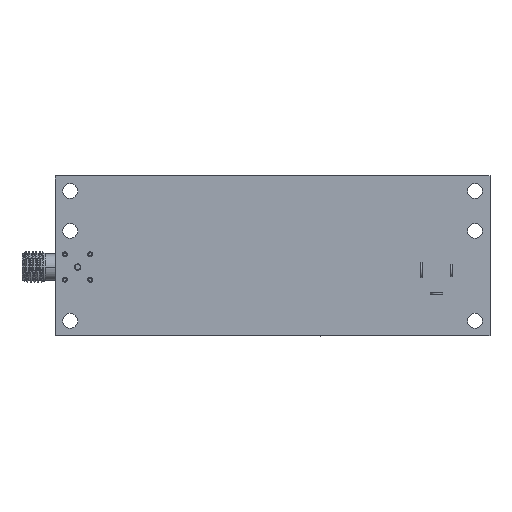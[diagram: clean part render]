
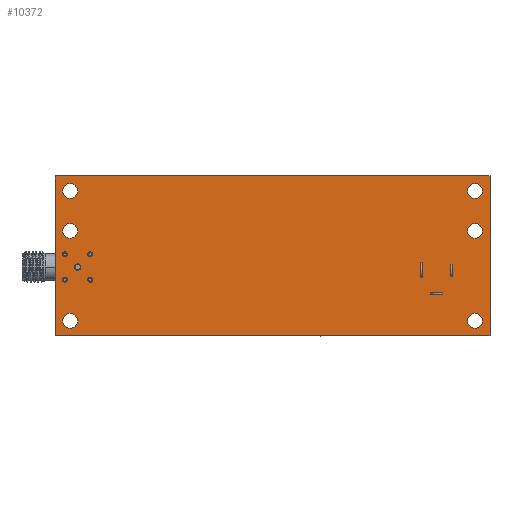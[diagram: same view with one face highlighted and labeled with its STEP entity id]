
A CAD part, top view. The second image highlights one B-rep face of the part: STEP entity #10372.
In plain terms, the highlighted planar face has unit normal (0, 0, 1).
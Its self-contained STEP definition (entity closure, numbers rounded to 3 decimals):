
#1 = ORIENTED_EDGE ( 'NONE', *, *, #3732, .T. ) ;
#21 = EDGE_CURVE ( 'NONE', #6914, #8285, #5935, .T. ) ;
#51 = DIRECTION ( 'NONE',  ( -1., 0., 0. ) ) ;
#85 = VERTEX_POINT ( 'NONE', #1519 ) ;
#250 = EDGE_LOOP ( 'NONE', ( #10302, #11167 ) ) ;
#251 = AXIS2_PLACEMENT_3D ( 'NONE', #5377, #7181, #11874 ) ;
#301 = CARTESIAN_POINT ( 'NONE',  ( 3., 3., 1.6 ) ) ;
#545 = CARTESIAN_POINT ( 'NONE',  ( 0., 0., 1.6 ) ) ;
#547 = CARTESIAN_POINT ( 'NONE',  ( 85.5, 21., 1.6 ) ) ;
#612 = ORIENTED_EDGE ( 'NONE', *, *, #9638, .T. ) ;
#627 = CIRCLE ( 'NONE', #1920, 1.5 ) ;
#655 = CARTESIAN_POINT ( 'NONE',  ( 1.5, 21., 1.6 ) ) ;
#851 = VERTEX_POINT ( 'NONE', #10144 ) ;
#868 = CARTESIAN_POINT ( 'NONE',  ( 0., 0., 1.6 ) ) ;
#1053 = CARTESIAN_POINT ( 'NONE',  ( 1.5, 29., 1.6 ) ) ;
#1156 = EDGE_LOOP ( 'NONE', ( #7958, #8464 ) ) ;
#1176 = VERTEX_POINT ( 'NONE', #7930 ) ;
#1188 = FACE_BOUND ( 'NONE', #1156, .T. ) ;
#1372 = LINE ( 'NONE', #3040, #11508 ) ;
#1519 = CARTESIAN_POINT ( 'NONE',  ( 0., 32., 1.6 ) ) ;
#1640 = EDGE_CURVE ( 'NONE', #10937, #85, #6713, .T. ) ;
#1771 = CARTESIAN_POINT ( 'NONE',  ( 87., 32., 1.6 ) ) ;
#1862 = EDGE_CURVE ( 'NONE', #8520, #9144, #9624, .T. ) ;
#1867 = CARTESIAN_POINT ( 'NONE',  ( 84., 29., 1.6 ) ) ;
#1920 = AXIS2_PLACEMENT_3D ( 'NONE', #2167, #11248, #4896 ) ;
#2167 = CARTESIAN_POINT ( 'NONE',  ( 3., 21., 1.6 ) ) ;
#2195 = LINE ( 'NONE', #2381, #10704 ) ;
#2257 = DIRECTION ( 'NONE',  ( 0., 0., -1. ) ) ;
#2269 = DIRECTION ( 'NONE',  ( -1., 0., 0. ) ) ;
#2369 = AXIS2_PLACEMENT_3D ( 'NONE', #10656, #11602, #7963 ) ;
#2381 = CARTESIAN_POINT ( 'NONE',  ( 0., 0., 1.6 ) ) ;
#2398 = AXIS2_PLACEMENT_3D ( 'NONE', #4338, #5220, #10804 ) ;
#2453 = VERTEX_POINT ( 'NONE', #9436 ) ;
#2582 = ORIENTED_EDGE ( 'NONE', *, *, #5978, .T. ) ;
#2620 = AXIS2_PLACEMENT_3D ( 'NONE', #10006, #7183, #9966 ) ;
#2943 = CARTESIAN_POINT ( 'NONE',  ( 0., 32., 1.6 ) ) ;
#2988 = DIRECTION ( 'NONE',  ( 0., 0., -1. ) ) ;
#3040 = CARTESIAN_POINT ( 'NONE',  ( 87., 0., 1.6 ) ) ;
#3100 = EDGE_LOOP ( 'NONE', ( #612, #1 ) ) ;
#3210 = ORIENTED_EDGE ( 'NONE', *, *, #1862, .T. ) ;
#3348 = EDGE_LOOP ( 'NONE', ( #4606, #7848 ) ) ;
#3654 = CIRCLE ( 'NONE', #5534, 1.5 ) ;
#3722 = EDGE_CURVE ( 'NONE', #5118, #851, #2195, .T. ) ;
#3732 = EDGE_CURVE ( 'NONE', #9494, #9483, #3654, .T. ) ;
#3815 = CARTESIAN_POINT ( 'NONE',  ( 85.5, 3., 1.6 ) ) ;
#3970 = DIRECTION ( 'NONE',  ( 0., 1., 0. ) ) ;
#4158 = DIRECTION ( 'NONE',  ( 0., 0., -1. ) ) ;
#4242 = CARTESIAN_POINT ( 'NONE',  ( 4.5, 3., 1.6 ) ) ;
#4244 = VECTOR ( 'NONE', #9402, 1000. ) ;
#4317 = ORIENTED_EDGE ( 'NONE', *, *, #8974, .T. ) ;
#4338 = CARTESIAN_POINT ( 'NONE',  ( 84., 21., 1.6 ) ) ;
#4342 = VERTEX_POINT ( 'NONE', #655 ) ;
#4403 = AXIS2_PLACEMENT_3D ( 'NONE', #8390, #9242, #6481 ) ;
#4426 = CARTESIAN_POINT ( 'NONE',  ( 85.5, 29., 1.6 ) ) ;
#4489 = FACE_BOUND ( 'NONE', #250, .T. ) ;
#4556 = CIRCLE ( 'NONE', #251, 1.5 ) ;
#4573 = AXIS2_PLACEMENT_3D ( 'NONE', #9260, #11055, #4739 ) ;
#4606 = ORIENTED_EDGE ( 'NONE', *, *, #5960, .T. ) ;
#4638 = CIRCLE ( 'NONE', #11841, 1.5 ) ;
#4739 = DIRECTION ( 'NONE',  ( 1., 0., 0. ) ) ;
#4896 = DIRECTION ( 'NONE',  ( 1., 0., 0. ) ) ;
#4912 = CARTESIAN_POINT ( 'NONE',  ( 82.5, 29., 1.6 ) ) ;
#4930 = ORIENTED_EDGE ( 'NONE', *, *, #6169, .T. ) ;
#5118 = VERTEX_POINT ( 'NONE', #868 ) ;
#5177 = CARTESIAN_POINT ( 'NONE',  ( 4.5, 29., 1.6 ) ) ;
#5220 = DIRECTION ( 'NONE',  ( 0., 0., -1. ) ) ;
#5377 = CARTESIAN_POINT ( 'NONE',  ( 84., 3., 1.6 ) ) ;
#5405 = CIRCLE ( 'NONE', #8408, 1.5 ) ;
#5504 = DIRECTION ( 'NONE',  ( 1., 0., 0. ) ) ;
#5534 = AXIS2_PLACEMENT_3D ( 'NONE', #6908, #4158, #2269 ) ;
#5827 = CIRCLE ( 'NONE', #7321, 1.5 ) ;
#5860 = CARTESIAN_POINT ( 'NONE',  ( 84., 3., 1.6 ) ) ;
#5935 = CIRCLE ( 'NONE', #2369, 1.5 ) ;
#5947 = EDGE_LOOP ( 'NONE', ( #6999, #6630, #4930, #6964 ) ) ;
#5960 = EDGE_CURVE ( 'NONE', #1176, #8108, #4556, .T. ) ;
#5968 = AXIS2_PLACEMENT_3D ( 'NONE', #11001, #8321, #5504 ) ;
#5978 = EDGE_CURVE ( 'NONE', #9545, #4342, #7909, .T. ) ;
#6031 = CARTESIAN_POINT ( 'NONE',  ( 82.5, 21., 1.6 ) ) ;
#6169 = EDGE_CURVE ( 'NONE', #851, #10937, #1372, .T. ) ;
#6409 = CIRCLE ( 'NONE', #4573, 1.5 ) ;
#6481 = DIRECTION ( 'NONE',  ( -1., 0., 0. ) ) ;
#6489 = EDGE_CURVE ( 'NONE', #9144, #8520, #6409, .T. ) ;
#6580 = DIRECTION ( 'NONE',  ( 0., 0., -1. ) ) ;
#6630 = ORIENTED_EDGE ( 'NONE', *, *, #3722, .T. ) ;
#6653 = DIRECTION ( 'NONE',  ( -1., 0., 0. ) ) ;
#6713 = LINE ( 'NONE', #2943, #4244 ) ;
#6906 = DIRECTION ( 'NONE',  ( 0., -1., 0. ) ) ;
#6908 = CARTESIAN_POINT ( 'NONE',  ( 84., 21., 1.6 ) ) ;
#6914 = VERTEX_POINT ( 'NONE', #4426 ) ;
#6964 = ORIENTED_EDGE ( 'NONE', *, *, #1640, .T. ) ;
#6999 = ORIENTED_EDGE ( 'NONE', *, *, #8409, .T. ) ;
#7104 = FACE_BOUND ( 'NONE', #3100, .T. ) ;
#7181 = DIRECTION ( 'NONE',  ( 0., 0., -1. ) ) ;
#7183 = DIRECTION ( 'NONE',  ( 0., 0., -1. ) ) ;
#7321 = AXIS2_PLACEMENT_3D ( 'NONE', #1867, #7429, #51 ) ;
#7325 = EDGE_CURVE ( 'NONE', #8108, #1176, #5405, .T. ) ;
#7429 = DIRECTION ( 'NONE',  ( 0., 0., -1. ) ) ;
#7504 = EDGE_CURVE ( 'NONE', #8285, #6914, #5827, .T. ) ;
#7798 = VERTEX_POINT ( 'NONE', #4242 ) ;
#7848 = ORIENTED_EDGE ( 'NONE', *, *, #7325, .T. ) ;
#7905 = DIRECTION ( 'NONE',  ( 1., 0., 0. ) ) ;
#7909 = CIRCLE ( 'NONE', #5968, 1.5 ) ;
#7930 = CARTESIAN_POINT ( 'NONE',  ( 82.5, 3., 1.6 ) ) ;
#7958 = ORIENTED_EDGE ( 'NONE', *, *, #8922, .T. ) ;
#7963 = DIRECTION ( 'NONE',  ( -1., 0., 0. ) ) ;
#8108 = VERTEX_POINT ( 'NONE', #3815 ) ;
#8285 = VERTEX_POINT ( 'NONE', #4912 ) ;
#8321 = DIRECTION ( 'NONE',  ( 0., 0., -1. ) ) ;
#8390 = CARTESIAN_POINT ( 'NONE',  ( 0., 0., 1.6 ) ) ;
#8408 = AXIS2_PLACEMENT_3D ( 'NONE', #5860, #2257, #7905 ) ;
#8409 = EDGE_CURVE ( 'NONE', #85, #5118, #11327, .T. ) ;
#8464 = ORIENTED_EDGE ( 'NONE', *, *, #8627, .T. ) ;
#8520 = VERTEX_POINT ( 'NONE', #5177 ) ;
#8627 = EDGE_CURVE ( 'NONE', #7798, #2453, #10867, .T. ) ;
#8700 = DIRECTION ( 'NONE',  ( 1., 0., 0. ) ) ;
#8745 = EDGE_LOOP ( 'NONE', ( #8878, #3210 ) ) ;
#8778 = CARTESIAN_POINT ( 'NONE',  ( 4.5, 21., 1.6 ) ) ;
#8878 = ORIENTED_EDGE ( 'NONE', *, *, #6489, .T. ) ;
#8922 = EDGE_CURVE ( 'NONE', #2453, #7798, #4638, .T. ) ;
#8974 = EDGE_CURVE ( 'NONE', #4342, #9545, #627, .T. ) ;
#9024 = VECTOR ( 'NONE', #6906, 1000. ) ;
#9144 = VERTEX_POINT ( 'NONE', #1053 ) ;
#9158 = FACE_BOUND ( 'NONE', #8745, .T. ) ;
#9242 = DIRECTION ( 'NONE',  ( 0., 0., -1. ) ) ;
#9260 = CARTESIAN_POINT ( 'NONE',  ( 3., 29., 1.6 ) ) ;
#9394 = EDGE_LOOP ( 'NONE', ( #4317, #2582 ) ) ;
#9402 = DIRECTION ( 'NONE',  ( -1., 0., 0. ) ) ;
#9436 = CARTESIAN_POINT ( 'NONE',  ( 1.5, 3., 1.6 ) ) ;
#9468 = AXIS2_PLACEMENT_3D ( 'NONE', #11872, #2988, #10327 ) ;
#9483 = VERTEX_POINT ( 'NONE', #6031 ) ;
#9494 = VERTEX_POINT ( 'NONE', #547 ) ;
#9545 = VERTEX_POINT ( 'NONE', #8778 ) ;
#9624 = CIRCLE ( 'NONE', #9468, 1.5 ) ;
#9638 = EDGE_CURVE ( 'NONE', #9483, #9494, #11845, .T. ) ;
#9847 = FACE_OUTER_BOUND ( 'NONE', #5947, .T. ) ;
#9966 = DIRECTION ( 'NONE',  ( -1., 0., 0. ) ) ;
#10006 = CARTESIAN_POINT ( 'NONE',  ( 3., 3., 1.6 ) ) ;
#10144 = CARTESIAN_POINT ( 'NONE',  ( 87., 0., 1.6 ) ) ;
#10302 = ORIENTED_EDGE ( 'NONE', *, *, #7504, .T. ) ;
#10327 = DIRECTION ( 'NONE',  ( 1., 0., 0. ) ) ;
#10372 = ADVANCED_FACE ( 'NONE', ( #7104, #11599, #10424, #4489, #9158, #1188, #9847 ), #11077, .F. ) ;
#10424 = FACE_BOUND ( 'NONE', #3348, .T. ) ;
#10656 = CARTESIAN_POINT ( 'NONE',  ( 84., 29., 1.6 ) ) ;
#10704 = VECTOR ( 'NONE', #8700, 1000. ) ;
#10804 = DIRECTION ( 'NONE',  ( -1., 0., 0. ) ) ;
#10867 = CIRCLE ( 'NONE', #2620, 1.5 ) ;
#10937 = VERTEX_POINT ( 'NONE', #1771 ) ;
#11001 = CARTESIAN_POINT ( 'NONE',  ( 3., 21., 1.6 ) ) ;
#11055 = DIRECTION ( 'NONE',  ( 0., 0., -1. ) ) ;
#11077 = PLANE ( 'NONE',  #4403 ) ;
#11167 = ORIENTED_EDGE ( 'NONE', *, *, #21, .T. ) ;
#11248 = DIRECTION ( 'NONE',  ( 0., 0., -1. ) ) ;
#11327 = LINE ( 'NONE', #545, #9024 ) ;
#11508 = VECTOR ( 'NONE', #3970, 1000. ) ;
#11599 = FACE_BOUND ( 'NONE', #9394, .T. ) ;
#11602 = DIRECTION ( 'NONE',  ( 0., 0., -1. ) ) ;
#11841 = AXIS2_PLACEMENT_3D ( 'NONE', #301, #6580, #6653 ) ;
#11845 = CIRCLE ( 'NONE', #2398, 1.5 ) ;
#11872 = CARTESIAN_POINT ( 'NONE',  ( 3., 29., 1.6 ) ) ;
#11874 = DIRECTION ( 'NONE',  ( 1., 0., 0. ) ) ;
